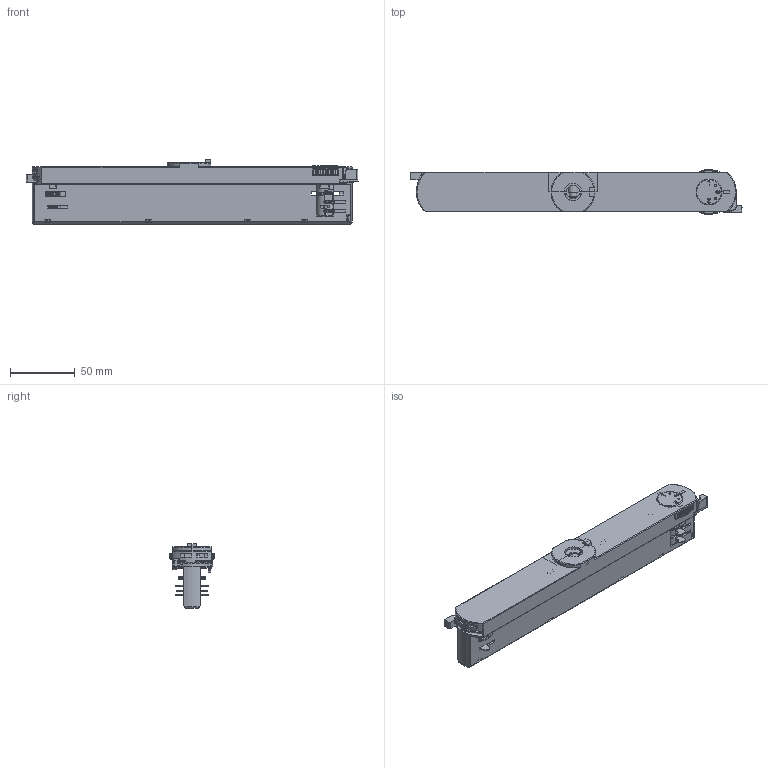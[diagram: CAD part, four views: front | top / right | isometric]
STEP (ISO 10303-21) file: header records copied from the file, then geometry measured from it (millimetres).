
FILE_DESCRIPTION((''),'2;1');
FILE_NAME('3D_ASM','2024-11-19T',('Arbiter.he'),(''),'CREO PARAMETRIC BY PTC INC, 2018220','CREO PARAMETRIC BY PTC INC, 2018220','');
FILE_SCHEMA(('CONFIG_CONTROL_DESIGN'));
Length unit declared in the file: millimetre
Products named in the file (20): DOWN; ZHUAN1; ZHUAN1-1; T3; T2; ZHUAN2; T4; T5; ZHUAN3; ZHUAN4; 3D-ZHUANZI_ASM; T1; 3D-ZHUANZI-1_ASM; HOUSING; ZHICHENG; TAN; XN-DALI_ASM; PCB-DALI; COVER-1; 3D_ASM
Assembly tree (22 placements, depth 4):
  3D_ASM
    DOWN
    3D-ZHUANZI-1_ASM
      ZHUAN1
      ZHUAN1-1
      T3
      T2
      3D-ZHUANZI_ASM
        ZHUAN2
        T4  x2
        T5  x2
        ZHUAN3
        ZHUAN4
      T1
    XN-DALI_ASM
      HOUSING
      ZHICHENG
      TAN  x2
    PCB-DALI
    COVER-1
Bounding box: 257.23 x 34.99 x 50 mm (x, y, z)
Volume: 76266 mm3; surface area: 120154.1 mm2
Topology: 22 solids, 22 shells, 3433 faces, 9670 edges, 6220 vertices
Faces by surface type: plane 1885, cylinder 746, bspline 581, torus 112, cone 69, extrusion 24, sphere 16
Entity records: 226877 total; most frequent: CARTESIAN_POINT 131631, ORIENTED_EDGE 18908, DIRECTION 14631, EDGE_CURVE 9454, VERTEX_POINT 6078, VECTOR 5857, LINE 5833, AXIS2_PLACEMENT_3D 4387
